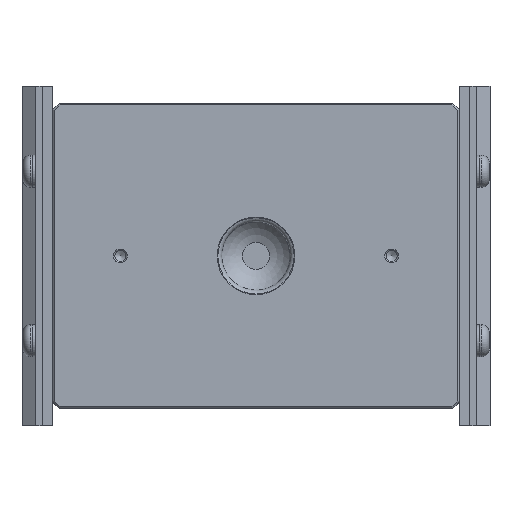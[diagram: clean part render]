
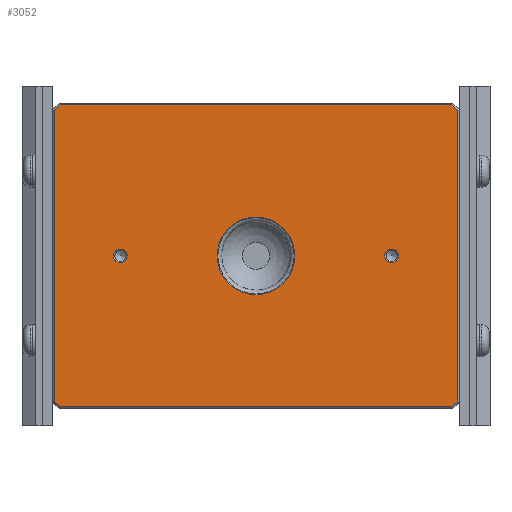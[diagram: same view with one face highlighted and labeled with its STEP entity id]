
A CAD part, top view. The second image highlights one B-rep face of the part: STEP entity #3052.
In plain terms, the highlighted planar face has unit normal (0, 0, 1).
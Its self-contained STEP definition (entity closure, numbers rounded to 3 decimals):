
#146=FACE_BOUND('',#544,.T.);
#147=FACE_BOUND('',#545,.T.);
#148=FACE_BOUND('',#546,.T.);
#193=CIRCLE('',#3283,11.45);
#196=CIRCLE('',#3287,2.);
#197=CIRCLE('',#3288,2.);
#343=FACE_OUTER_BOUND('',#543,.T.);
#543=EDGE_LOOP('',(#1980,#1981,#1982,#1983,#1984,#1985,#1986,#1987));
#544=EDGE_LOOP('',(#1988));
#545=EDGE_LOOP('',(#1989));
#546=EDGE_LOOP('',(#1990));
#800=LINE('',#4601,#1038);
#801=LINE('',#4603,#1039);
#802=LINE('',#4605,#1040);
#803=LINE('',#4607,#1041);
#804=LINE('',#4609,#1042);
#805=LINE('',#4611,#1043);
#806=LINE('',#4613,#1044);
#807=LINE('',#4614,#1045);
#1038=VECTOR('',#3682,10.);
#1039=VECTOR('',#3683,10.);
#1040=VECTOR('',#3684,10.);
#1041=VECTOR('',#3685,10.);
#1042=VECTOR('',#3686,10.);
#1043=VECTOR('',#3687,10.);
#1044=VECTOR('',#3688,10.);
#1045=VECTOR('',#3689,10.);
#1268=VERTEX_POINT('',#4591);
#1271=VERTEX_POINT('',#4599);
#1272=VERTEX_POINT('',#4600);
#1273=VERTEX_POINT('',#4602);
#1274=VERTEX_POINT('',#4604);
#1275=VERTEX_POINT('',#4606);
#1276=VERTEX_POINT('',#4608);
#1277=VERTEX_POINT('',#4610);
#1278=VERTEX_POINT('',#4612);
#1279=VERTEX_POINT('',#4615);
#1280=VERTEX_POINT('',#4617);
#1545=EDGE_CURVE('',#1268,#1268,#193,.T.);
#1549=EDGE_CURVE('',#1271,#1272,#800,.T.);
#1550=EDGE_CURVE('',#1273,#1271,#801,.T.);
#1551=EDGE_CURVE('',#1274,#1273,#802,.T.);
#1552=EDGE_CURVE('',#1275,#1274,#803,.T.);
#1553=EDGE_CURVE('',#1276,#1275,#804,.T.);
#1554=EDGE_CURVE('',#1277,#1276,#805,.T.);
#1555=EDGE_CURVE('',#1278,#1277,#806,.T.);
#1556=EDGE_CURVE('',#1272,#1278,#807,.T.);
#1557=EDGE_CURVE('',#1279,#1279,#196,.T.);
#1558=EDGE_CURVE('',#1280,#1280,#197,.T.);
#1980=ORIENTED_EDGE('',*,*,#1549,.F.);
#1981=ORIENTED_EDGE('',*,*,#1550,.F.);
#1982=ORIENTED_EDGE('',*,*,#1551,.F.);
#1983=ORIENTED_EDGE('',*,*,#1552,.F.);
#1984=ORIENTED_EDGE('',*,*,#1553,.F.);
#1985=ORIENTED_EDGE('',*,*,#1554,.F.);
#1986=ORIENTED_EDGE('',*,*,#1555,.F.);
#1987=ORIENTED_EDGE('',*,*,#1556,.F.);
#1988=ORIENTED_EDGE('',*,*,#1557,.T.);
#1989=ORIENTED_EDGE('',*,*,#1558,.T.);
#1990=ORIENTED_EDGE('',*,*,#1545,.F.);
#2741=PLANE('',#3286);
#3052=ADVANCED_FACE('',(#343,#146,#147,#148),#2741,.T.);
#3283=AXIS2_PLACEMENT_3D('',#4592,#3673,#3674);
#3286=AXIS2_PLACEMENT_3D('',#4598,#3680,#3681);
#3287=AXIS2_PLACEMENT_3D('',#4616,#3690,#3691);
#3288=AXIS2_PLACEMENT_3D('',#4618,#3692,#3693);
#3673=DIRECTION('center_axis',(0.,0.,1.));
#3674=DIRECTION('ref_axis',(0.,-1.,0.));
#3680=DIRECTION('center_axis',(0.,0.,1.));
#3681=DIRECTION('ref_axis',(1.,0.,0.));
#3682=DIRECTION('',(-1.,0.,0.));
#3683=DIRECTION('',(-0.707,-0.707,0.));
#3684=DIRECTION('',(0.,-1.,0.));
#3685=DIRECTION('',(0.707,-0.707,0.));
#3686=DIRECTION('',(1.,0.,0.));
#3687=DIRECTION('',(0.707,0.707,0.));
#3688=DIRECTION('',(0.,1.,0.));
#3689=DIRECTION('',(-0.707,0.707,0.));
#3690=DIRECTION('center_axis',(0.,0.,-1.));
#3691=DIRECTION('ref_axis',(1.,0.,0.));
#3692=DIRECTION('center_axis',(0.,0.,-1.));
#3693=DIRECTION('ref_axis',(1.,0.,0.));
#4591=CARTESIAN_POINT('',(0.,11.45,33.));
#4592=CARTESIAN_POINT('Origin',(0.,0.,33.));
#4598=CARTESIAN_POINT('Origin',(0.,0.,
33.));
#4599=CARTESIAN_POINT('',(57.793,-44.5,33.));
#4600=CARTESIAN_POINT('',(-57.793,-44.5,33.));
#4601=CARTESIAN_POINT('',(30.,-44.5,33.));
#4602=CARTESIAN_POINT('',(59.5,-42.793,33.));
#4603=CARTESIAN_POINT('',(54.896,-47.396,33.));
#4604=CARTESIAN_POINT('',(59.5,42.793,33.));
#4605=CARTESIAN_POINT('',(59.5,22.5,33.));
#4606=CARTESIAN_POINT('',(57.793,44.5,33.));
#4607=CARTESIAN_POINT('',(54.896,47.396,33.));
#4608=CARTESIAN_POINT('',(-57.793,44.5,33.));
#4609=CARTESIAN_POINT('',(-30.,44.5,33.));
#4610=CARTESIAN_POINT('',(-59.5,42.793,33.));
#4611=CARTESIAN_POINT('',(-54.896,47.396,33.));
#4612=CARTESIAN_POINT('',(-59.5,-42.793,33.));
#4613=CARTESIAN_POINT('',(-59.5,-22.5,33.));
#4614=CARTESIAN_POINT('',(-54.896,-47.396,33.));
#4615=CARTESIAN_POINT('',(38.,0.,33.));
#4616=CARTESIAN_POINT('Origin',(40.,0.,33.));
#4617=CARTESIAN_POINT('',(-42.,0.,33.));
#4618=CARTESIAN_POINT('Origin',(-40.,0.,33.));
